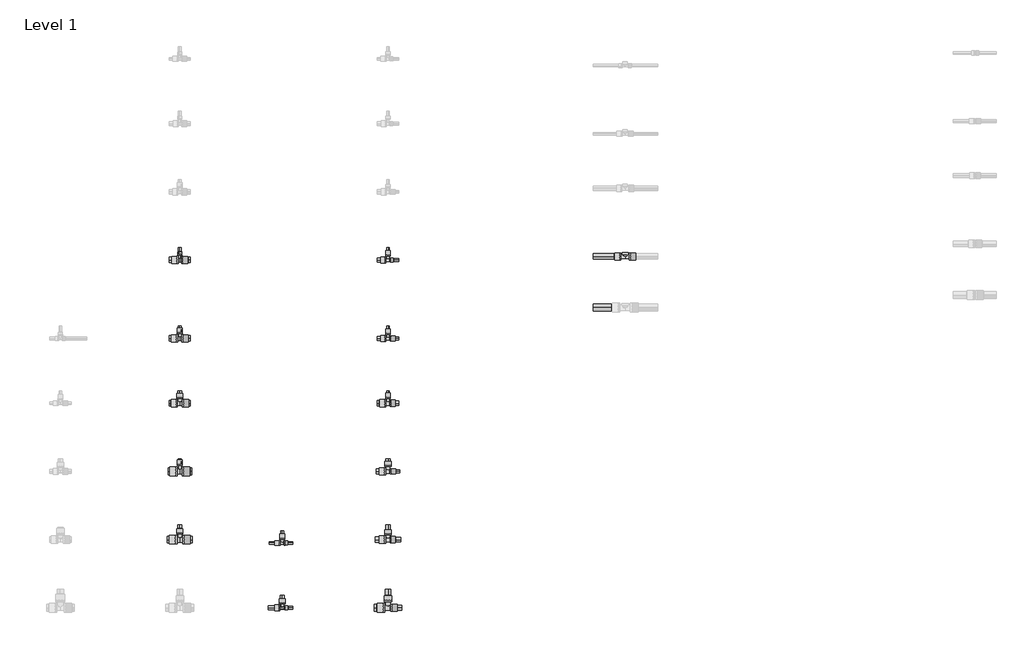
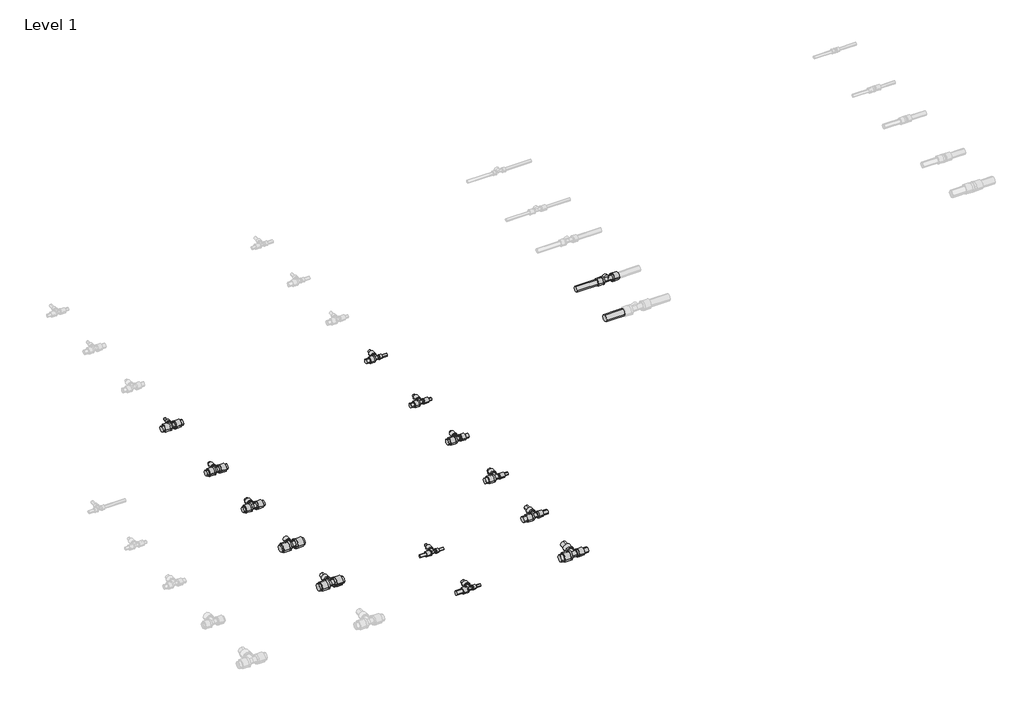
# One storey, part 9 of 78: 41 pipe segments, 14 pipe fittings.
"""IFC4 building model written with IfcOpenShell, lengths in millimetres."""

from ifc_helpers import new_model, si_unit, point, frame, frame_2d, origin, place, context, project, spatial, circle_curve, trimmed, segment, composite_curve, outline, extrude, transform, mapped, element, save
from components import pipe_fitting_91740978, pipe_fitting_7435f538, pipe_fitting_b40a3e3c, pipe_fitting_68251213, pipe_fitting_15165f03, pipe_fitting_a094db19, pipe_fitting_19df1a9e, pipe_fitting_16730f07, pipe_fitting_5d5decb5, pipe_fitting_f2600fd0, pipe_fitting_8d489ee2, pipe_fitting_c4e8b4db, pipe_fitting_757463f1, pipe_fitting_e638986c

model = new_model("IFC4")

# Units and contexts
model_context = context("Model", 3, world=origin())
ifc_project = project(units=[si_unit("LENGTHUNIT", "METRE", prefix="MILLI")], contexts=[model_context])

# Site, building, storey
site = spatial("IfcSite", under=ifc_project)
building = spatial("IfcBuilding", under=site)
storey = spatial("IfcBuildingStorey", under=building, Name="Level 1", Elevation=0.0)

# Pipe fittings
placement = place(None, origin())
pipe_fitting_shape = pipe_fitting_91740978(model_context)
element("IfcPipeFitting", 1, ObjectType="FASTLOC_T-piece internal thread LX : FSL T thread LX FR", at=placement, inside=storey, context=model_context, shape_type="MappedRepresentation", body=[
    mapped(pipe_fitting_shape, transform((3036.609585, -28299.8272875, 0.0), x_axis=(1.0, 0.0, 0.0), y_axis=(0.0, 1.0, 0.0), z_axis=(0.0, 0.0, 1.0))),
])
pipe_fitting_2_shape = pipe_fitting_7435f538(model_context)
element("IfcPipeFitting", 2, ObjectType="FASTLOC_T-piece_LX : FSL T-Piece LX FR", at=placement, inside=storey, context=model_context, shape_type="MappedRepresentation", body=[
    mapped(pipe_fitting_2_shape, transform((426.7498072, -28780.2405791, 0.0), x_axis=(1.0, 0.0, 0.0), y_axis=(0.0, 1.0, 0.0), z_axis=(0.0, 0.0, 1.0))),
])
pipe_fitting_3_shape = pipe_fitting_b40a3e3c(model_context)
element("IfcPipeFitting", 3, ObjectType="FASTLOC_T-piece_LX : FSL T-Piece LX FR", at=placement, inside=storey, context=model_context, shape_type="MappedRepresentation", body=[
    mapped(pipe_fitting_3_shape, transform((426.7498072, -29160.2405791, 0.0), x_axis=(1.0, 0.0, 0.0), y_axis=(0.0, 1.0, 0.0), z_axis=(0.0, 0.0, 1.0))),
])
pipe_fitting_4_shape = pipe_fitting_68251213(model_context)
element("IfcPipeFitting", 4, ObjectType="FASTLOC_T-piece_LX : FSL T-Piece LX FR", at=placement, inside=storey, context=model_context, shape_type="MappedRepresentation", body=[
    mapped(pipe_fitting_4_shape, transform((426.7498072, -29560.2405791, 0.0), x_axis=(1.0, 0.0, 0.0), y_axis=(0.0, 1.0, 0.0), z_axis=(0.0, 0.0, 1.0))),
])
pipe_fitting_5_shape = pipe_fitting_15165f03(model_context)
element("IfcPipeFitting", 5, ObjectType="FASTLOC_T-piece_LX : FSL T-Piece LX FR", at=placement, inside=storey, context=model_context, shape_type="MappedRepresentation", body=[
    mapped(pipe_fitting_5_shape, transform((426.7498072, -29960.2405791, 0.0), x_axis=(1.0, 0.0, 0.0), y_axis=(0.0, 1.0, 0.0), z_axis=(0.0, 0.0, 1.0))),
])
pipe_fitting_6_shape = pipe_fitting_a094db19(model_context)
element("IfcPipeFitting", 6, ObjectType="FASTLOC_T-piece_LX : FSL T-Piece LX FR", at=placement, inside=storey, context=model_context, shape_type="MappedRepresentation", body=[
    mapped(pipe_fitting_6_shape, transform((426.7498072, -28320.2405791, 0.0), x_axis=(1.0, 0.0, 0.0), y_axis=(0.0, 1.0, 0.0), z_axis=(0.0, 0.0, 1.0))),
])
pipe_fitting_7_shape = pipe_fitting_19df1a9e(model_context)
element("IfcPipeFitting", 7, ObjectType="FASTLOC_T-piece_LX : FSL T-Piece LX FR", at=placement, inside=storey, context=model_context, shape_type="MappedRepresentation", body=[
    mapped(pipe_fitting_7_shape, transform((1026.7498072, -29980.2405791, 0.0), x_axis=(1.0, 0.0, 0.0), y_axis=(0.0, 1.0, 0.0), z_axis=(0.0, 0.0, 1.0))),
])
pipe_fitting_8_shape = pipe_fitting_16730f07(model_context)
element("IfcPipeFitting", 8, ObjectType="FASTLOC_T-piece_LX : FSL T-Piece LX FR", at=placement, inside=storey, context=model_context, shape_type="MappedRepresentation", body=[
    mapped(pipe_fitting_8_shape, transform((1026.7498072, -30360.2405791, 0.0), x_axis=(1.0, 0.0, 0.0), y_axis=(0.0, 1.0, 0.0), z_axis=(0.0, 0.0, 1.0))),
])
pipe_fitting_9_shape = pipe_fitting_5d5decb5(model_context)
element("IfcPipeFitting", 9, ObjectType="FASTLOC_T-piece_LX : FSL T-Piece LX FR", at=placement, inside=storey, context=model_context, shape_type="MappedRepresentation", body=[
    mapped(pipe_fitting_9_shape, transform((1646.7498072, -28780.2405791, 0.0), x_axis=(1.0, 0.0, 0.0), y_axis=(0.0, 1.0, 0.0), z_axis=(0.0, 0.0, 1.0))),
])
pipe_fitting_10_shape = pipe_fitting_f2600fd0(model_context)
element("IfcPipeFitting", 10, ObjectType="FASTLOC_T-piece_LX : FSL T-Piece LX FR", at=placement, inside=storey, context=model_context, shape_type="MappedRepresentation", body=[
    mapped(pipe_fitting_10_shape, transform((1646.7498072, -29160.2405791, 0.0), x_axis=(1.0, 0.0, 0.0), y_axis=(0.0, 1.0, 0.0), z_axis=(0.0, 0.0, 1.0))),
])
pipe_fitting_11_shape = pipe_fitting_8d489ee2(model_context)
element("IfcPipeFitting", 11, ObjectType="FASTLOC_T-piece_LX : FSL T-Piece LX FR", at=placement, inside=storey, context=model_context, shape_type="MappedRepresentation", body=[
    mapped(pipe_fitting_11_shape, transform((1646.7498072, -29560.2405791, 0.0), x_axis=(1.0, 0.0, 0.0), y_axis=(0.0, 1.0, 0.0), z_axis=(0.0, 0.0, 1.0))),
])
pipe_fitting_12_shape = pipe_fitting_c4e8b4db(model_context)
element("IfcPipeFitting", 12, ObjectType="FASTLOC_T-piece_LX : FSL T-Piece LX FR", at=placement, inside=storey, context=model_context, shape_type="MappedRepresentation", body=[
    mapped(pipe_fitting_12_shape, transform((1646.7498072, -29960.2405791, 0.0), x_axis=(1.0, 0.0, 0.0), y_axis=(0.0, 1.0, 0.0), z_axis=(0.0, 0.0, 1.0))),
])
pipe_fitting_13_shape = pipe_fitting_757463f1(model_context)
element("IfcPipeFitting", 13, ObjectType="FASTLOC_T-piece_LX : FSL T-Piece LX FR", at=placement, inside=storey, context=model_context, shape_type="MappedRepresentation", body=[
    mapped(pipe_fitting_13_shape, transform((1646.7498072, -30360.2405791, 0.0), x_axis=(1.0, 0.0, 0.0), y_axis=(0.0, 1.0, 0.0), z_axis=(0.0, 0.0, 1.0))),
])
pipe_fitting_14_shape = pipe_fitting_e638986c(model_context)
element("IfcPipeFitting", 14, ObjectType="FASTLOC_T-piece_LX : FSL T-Piece LX FR", at=placement, inside=storey, context=model_context, shape_type="MappedRepresentation", body=[
    mapped(pipe_fitting_14_shape, transform((1646.7498072, -28320.2405791, 0.0), x_axis=(1.0, 0.0, 0.0), y_axis=(0.0, 1.0, 0.0), z_axis=(0.0, 0.0, 1.0))),
])

# Pipe segments
element("IfcPipeSegment", 15, ObjectType="FASTLOC LX ML FR bar", at=placement, inside=storey, context=model_context, shape_type="SweptSolid", body=[
    extrude(outline(composite_curve([segment(trimmed(circle_curve(frame_2d((-28780.2405791, 0.0)), 16.0), [point((-28796.2405791, 0.0))], [point((-28780.2405791, 16.0))], False, "CARTESIAN"), True, "CONTINUOUS"), segment(trimmed(circle_curve(frame_2d((-28780.2405791, 0.0)), 16.0), [point((-28780.2405791, 16.0))], [point((-28764.2405791, 0.0))], False, "CARTESIAN"), True, "CONTINUOUS"), segment(trimmed(circle_curve(frame_2d((-28780.2405791, 0.0)), 16.0), [point((-28764.2405791, 0.0))], [point((-28780.2405791, -16.0))], False, "CARTESIAN"), True, "CONTINUOUS"), segment(trimmed(circle_curve(frame_2d((-28780.2405791, 0.0)), 16.0), [point((-28780.2405791, -16.0))], [point((-28796.2405791, 0.0))], False, "CARTESIAN"), True, "CONTINUOUS")], self_intersect=False)), frame((446.9498072, 0.0, 0.0), z_axis=(1.0, 0.0, 0.0), x_axis=(0.0, 1.0, 0.0)), (0.0, 0.0, 1.0), 41.8),
])
element("IfcPipeSegment", 16, ObjectType="FASTLOC LX ML FR bar", at=placement, inside=storey, context=model_context, shape_type="SweptSolid", body=[
    extrude(outline(composite_curve([segment(trimmed(circle_curve(frame_2d((-28780.2405791, 0.0)), 16.0), [point((-28764.2405791, 0.0))], [point((-28780.2405791, -16.0))], False, "CARTESIAN"), True, "CONTINUOUS"), segment(trimmed(circle_curve(frame_2d((-28780.2405791, 0.0)), 16.0), [point((-28780.2405791, -16.0))], [point((-28796.2405791, 0.0))], False, "CARTESIAN"), True, "CONTINUOUS"), segment(trimmed(circle_curve(frame_2d((-28780.2405791, 0.0)), 16.0), [point((-28796.2405791, 0.0))], [point((-28780.2405791, 16.0))], False, "CARTESIAN"), True, "CONTINUOUS"), segment(trimmed(circle_curve(frame_2d((-28780.2405791, 0.0)), 16.0), [point((-28780.2405791, 16.0))], [point((-28764.2405791, 0.0))], False, "CARTESIAN"), True, "CONTINUOUS")], self_intersect=False)), frame((364.7498072, 0.0, 0.0), z_axis=(1.0, 0.0, 0.0), x_axis=(0.0, 1.0, 0.0)), (0.0, 0.0, 1.0), 41.8),
])
element("IfcPipeSegment", 17, ObjectType="FASTLOC LX ML FR bar", at=placement, inside=storey, context=model_context, shape_type="SweptSolid", body=[
    extrude(outline(composite_curve([segment(trimmed(circle_curve(frame_2d((0.0, 426.7498072)), 8.0), [point((0.0, 434.7498072))], [point((8.0, 426.7498072))], False, "CARTESIAN"), True, "CONTINUOUS"), segment(trimmed(circle_curve(frame_2d((0.0, 426.7498072)), 8.0), [point((8.0, 426.7498072))], [point((0.0, 418.7498072))], False, "CARTESIAN"), True, "CONTINUOUS"), segment(trimmed(circle_curve(frame_2d((0.0, 426.7498072)), 8.0), [point((0.0, 418.7498072))], [point((-8.0, 426.7498072))], False, "CARTESIAN"), True, "CONTINUOUS"), segment(trimmed(circle_curve(frame_2d((0.0, 426.7498072)), 8.0), [point((-8.0, 426.7498072))], [point((0.0, 434.7498072))], False, "CARTESIAN"), True, "CONTINUOUS")], self_intersect=False)), frame((0.0, -28746.2405791, 0.0), z_axis=(0.0, 1.0, 0.0), x_axis=(0.0, 0.0, 1.0)), (0.0, 0.0, 1.0), 38.3),
])
element("IfcPipeSegment", 18, ObjectType="FASTLOC LX ML FR bar", at=placement, inside=storey, context=model_context, shape_type="SweptSolid", body=[
    extrude(outline(composite_curve([segment(trimmed(circle_curve(frame_2d((-29160.2405791, 0.0)), 16.0), [point((-29176.2405791, 0.0))], [point((-29160.2405791, 16.0))], False, "CARTESIAN"), True, "CONTINUOUS"), segment(trimmed(circle_curve(frame_2d((-29160.2405791, 0.0)), 16.0), [point((-29160.2405791, 16.0))], [point((-29144.2405791, 0.0))], False, "CARTESIAN"), True, "CONTINUOUS"), segment(trimmed(circle_curve(frame_2d((-29160.2405791, 0.0)), 16.0), [point((-29144.2405791, 0.0))], [point((-29160.2405791, -16.0))], False, "CARTESIAN"), True, "CONTINUOUS"), segment(trimmed(circle_curve(frame_2d((-29160.2405791, 0.0)), 16.0), [point((-29160.2405791, -16.0))], [point((-29176.2405791, 0.0))], False, "CARTESIAN"), True, "CONTINUOUS")], self_intersect=False)), frame((448.7498072, 0.0, 0.0), z_axis=(1.0, 0.0, 0.0), x_axis=(0.0, 1.0, 0.0)), (0.0, 0.0, 1.0), 40.0),
])
element("IfcPipeSegment", 19, ObjectType="FASTLOC LX ML FR bar", at=placement, inside=storey, context=model_context, shape_type="SweptSolid", body=[
    extrude(outline(composite_curve([segment(trimmed(circle_curve(frame_2d((-29160.2405791, 0.0)), 16.0), [point((-29144.2405791, 0.0))], [point((-29160.2405791, -16.0))], False, "CARTESIAN"), True, "CONTINUOUS"), segment(trimmed(circle_curve(frame_2d((-29160.2405791, 0.0)), 16.0), [point((-29160.2405791, -16.0))], [point((-29176.2405791, 0.0))], False, "CARTESIAN"), True, "CONTINUOUS"), segment(trimmed(circle_curve(frame_2d((-29160.2405791, 0.0)), 16.0), [point((-29176.2405791, 0.0))], [point((-29160.2405791, 16.0))], False, "CARTESIAN"), True, "CONTINUOUS"), segment(trimmed(circle_curve(frame_2d((-29160.2405791, 0.0)), 16.0), [point((-29160.2405791, 16.0))], [point((-29144.2405791, 0.0))], False, "CARTESIAN"), True, "CONTINUOUS")], self_intersect=False)), frame((364.7498072, 0.0, 0.0), z_axis=(1.0, 0.0, 0.0), x_axis=(0.0, 1.0, 0.0)), (0.0, 0.0, 1.0), 40.0),
])
element("IfcPipeSegment", 20, ObjectType="FASTLOC LX ML FR bar", at=placement, inside=storey, context=model_context, shape_type="SweptSolid", body=[
    extrude(outline(composite_curve([segment(trimmed(circle_curve(frame_2d((0.0, 426.7498072)), 12.5), [point((0.0, 439.2498072))], [point((12.5, 426.7498072))], False, "CARTESIAN"), True, "CONTINUOUS"), segment(trimmed(circle_curve(frame_2d((0.0, 426.7498072)), 12.5), [point((12.5, 426.7498072))], [point((0.0, 414.2498072))], False, "CARTESIAN"), True, "CONTINUOUS"), segment(trimmed(circle_curve(frame_2d((0.0, 426.7498072)), 12.5), [point((0.0, 414.2498072))], [point((-12.5, 426.7498072))], False, "CARTESIAN"), True, "CONTINUOUS"), segment(trimmed(circle_curve(frame_2d((0.0, 426.7498072)), 12.5), [point((-12.5, 426.7498072))], [point((0.0, 439.2498072))], False, "CARTESIAN"), True, "CONTINUOUS")], self_intersect=False)), frame((0.0, -29125.8405791, 0.0), z_axis=(0.0, 1.0, 0.0), x_axis=(0.0, 0.0, 1.0)), (0.0, 0.0, 1.0), 37.9),
])
element("IfcPipeSegment", 21, ObjectType="FASTLOC LX ML FR bar", at=placement, inside=storey, context=model_context, shape_type="SweptSolid", body=[
    extrude(outline(composite_curve([segment(trimmed(circle_curve(frame_2d((-29560.2405791, 0.0)), 20.0), [point((-29580.2405791, 0.0))], [point((-29560.2405791, 20.0))], False, "CARTESIAN"), True, "CONTINUOUS"), segment(trimmed(circle_curve(frame_2d((-29560.2405791, 0.0)), 20.0), [point((-29560.2405791, 20.0))], [point((-29540.2405791, 0.0))], False, "CARTESIAN"), True, "CONTINUOUS"), segment(trimmed(circle_curve(frame_2d((-29560.2405791, 0.0)), 20.0), [point((-29540.2405791, 0.0))], [point((-29560.2405791, -20.0))], False, "CARTESIAN"), True, "CONTINUOUS"), segment(trimmed(circle_curve(frame_2d((-29560.2405791, 0.0)), 20.0), [point((-29560.2405791, -20.0))], [point((-29580.2405791, 0.0))], False, "CARTESIAN"), True, "CONTINUOUS")], self_intersect=False)), frame((450.7498072, 0.0, 0.0), z_axis=(1.0, 0.0, 0.0), x_axis=(0.0, 1.0, 0.0)), (0.0, 0.0, 1.0), 45.0),
])
element("IfcPipeSegment", 22, ObjectType="FASTLOC LX ML FR bar", at=placement, inside=storey, context=model_context, shape_type="SweptSolid", body=[
    extrude(outline(composite_curve([segment(trimmed(circle_curve(frame_2d((-29560.2405791, 0.0)), 20.0), [point((-29540.2405791, 0.0))], [point((-29560.2405791, -20.0))], False, "CARTESIAN"), True, "CONTINUOUS"), segment(trimmed(circle_curve(frame_2d((-29560.2405791, 0.0)), 20.0), [point((-29560.2405791, -20.0))], [point((-29580.2405791, 0.0))], False, "CARTESIAN"), True, "CONTINUOUS"), segment(trimmed(circle_curve(frame_2d((-29560.2405791, 0.0)), 20.0), [point((-29580.2405791, 0.0))], [point((-29560.2405791, 20.0))], False, "CARTESIAN"), True, "CONTINUOUS"), segment(trimmed(circle_curve(frame_2d((-29560.2405791, 0.0)), 20.0), [point((-29560.2405791, 20.0))], [point((-29540.2405791, 0.0))], False, "CARTESIAN"), True, "CONTINUOUS")], self_intersect=False)), frame((357.7498072, 0.0, 0.0), z_axis=(1.0, 0.0, 0.0), x_axis=(0.0, 1.0, 0.0)), (0.0, 0.0, 1.0), 45.0),
])
element("IfcPipeSegment", 23, ObjectType="FASTLOC LX ML FR bar", at=placement, inside=storey, context=model_context, shape_type="SweptSolid", body=[
    extrude(outline(composite_curve([segment(trimmed(circle_curve(frame_2d((0.0, 426.7498072)), 8.0), [point((0.0, 434.7498072))], [point((8.0, 426.7498072))], False, "CARTESIAN"), True, "CONTINUOUS"), segment(trimmed(circle_curve(frame_2d((0.0, 426.7498072)), 8.0), [point((8.0, 426.7498072))], [point((0.0, 418.7498072))], False, "CARTESIAN"), True, "CONTINUOUS"), segment(trimmed(circle_curve(frame_2d((0.0, 426.7498072)), 8.0), [point((0.0, 418.7498072))], [point((-8.0, 426.7498072))], False, "CARTESIAN"), True, "CONTINUOUS"), segment(trimmed(circle_curve(frame_2d((0.0, 426.7498072)), 8.0), [point((-8.0, 426.7498072))], [point((0.0, 434.7498072))], False, "CARTESIAN"), True, "CONTINUOUS")], self_intersect=False)), frame((0.0, -29519.7405791, 0.0), z_axis=(0.0, 1.0, 0.0), x_axis=(0.0, 0.0, 1.0)), (0.0, 0.0, 1.0), 31.8),
])
element("IfcPipeSegment", 24, ObjectType="FASTLOC LX ML FR bar", at=placement, inside=storey, context=model_context, shape_type="SweptSolid", body=[
    extrude(outline(composite_curve([segment(trimmed(circle_curve(frame_2d((-29960.2405791, 0.0)), 20.0), [point((-29980.2405791, 0.0))], [point((-29960.2405791, 20.0))], False, "CARTESIAN"), True, "CONTINUOUS"), segment(trimmed(circle_curve(frame_2d((-29960.2405791, 0.0)), 20.0), [point((-29960.2405791, 20.0))], [point((-29940.2405791, 0.0))], False, "CARTESIAN"), True, "CONTINUOUS"), segment(trimmed(circle_curve(frame_2d((-29960.2405791, 0.0)), 20.0), [point((-29940.2405791, 0.0))], [point((-29960.2405791, -20.0))], False, "CARTESIAN"), True, "CONTINUOUS"), segment(trimmed(circle_curve(frame_2d((-29960.2405791, 0.0)), 20.0), [point((-29960.2405791, -20.0))], [point((-29980.2405791, 0.0))], False, "CARTESIAN"), True, "CONTINUOUS")], self_intersect=False)), frame((452.5498072, 0.0, 0.0), z_axis=(1.0, 0.0, 0.0), x_axis=(0.0, 1.0, 0.0)), (0.0, 0.0, 1.0), 47.8),
])
element("IfcPipeSegment", 25, ObjectType="FASTLOC LX ML FR bar", at=placement, inside=storey, context=model_context, shape_type="SweptSolid", body=[
    extrude(outline(composite_curve([segment(trimmed(circle_curve(frame_2d((-29960.2405791, 0.0)), 20.0), [point((-29940.2405791, 0.0))], [point((-29960.2405791, -20.0))], False, "CARTESIAN"), True, "CONTINUOUS"), segment(trimmed(circle_curve(frame_2d((-29960.2405791, 0.0)), 20.0), [point((-29960.2405791, -20.0))], [point((-29980.2405791, 0.0))], False, "CARTESIAN"), True, "CONTINUOUS"), segment(trimmed(circle_curve(frame_2d((-29960.2405791, 0.0)), 20.0), [point((-29980.2405791, 0.0))], [point((-29960.2405791, 20.0))], False, "CARTESIAN"), True, "CONTINUOUS"), segment(trimmed(circle_curve(frame_2d((-29960.2405791, 0.0)), 20.0), [point((-29960.2405791, 20.0))], [point((-29940.2405791, 0.0))], False, "CARTESIAN"), True, "CONTINUOUS")], self_intersect=False)), frame((353.1498072, 0.0, 0.0), z_axis=(1.0, 0.0, 0.0), x_axis=(0.0, 1.0, 0.0)), (0.0, 0.0, 1.0), 47.8),
])
element("IfcPipeSegment", 26, ObjectType="FASTLOC LX ML FR bar", at=placement, inside=storey, context=model_context, shape_type="SweptSolid", body=[
    extrude(outline(composite_curve([segment(trimmed(circle_curve(frame_2d((0.0, 426.7498072)), 12.5), [point((0.0, 439.2498072))], [point((12.5, 426.7498072))], False, "CARTESIAN"), True, "CONTINUOUS"), segment(trimmed(circle_curve(frame_2d((0.0, 426.7498072)), 12.5), [point((12.5, 426.7498072))], [point((0.0, 414.2498072))], False, "CARTESIAN"), True, "CONTINUOUS"), segment(trimmed(circle_curve(frame_2d((0.0, 426.7498072)), 12.5), [point((0.0, 414.2498072))], [point((-12.5, 426.7498072))], False, "CARTESIAN"), True, "CONTINUOUS"), segment(trimmed(circle_curve(frame_2d((0.0, 426.7498072)), 12.5), [point((-12.5, 426.7498072))], [point((0.0, 439.2498072))], False, "CARTESIAN"), True, "CONTINUOUS")], self_intersect=False)), frame((0.0, -29919.2405791, 0.0), z_axis=(0.0, 1.0, 0.0), x_axis=(0.0, 0.0, 1.0)), (0.0, 0.0, 1.0), 46.8),
])
element("IfcPipeSegment", 27, ObjectType="FASTLOC LX ML FR bar", at=placement, inside=storey, context=model_context, shape_type="SweptSolid", body=[
    extrude(outline(composite_curve([segment(trimmed(circle_curve(frame_2d((-28320.2405791, 0.0)), 16.0), [point((-28336.2405791, 0.0))], [point((-28320.2405791, 16.0))], False, "CARTESIAN"), True, "CONTINUOUS"), segment(trimmed(circle_curve(frame_2d((-28320.2405791, 0.0)), 16.0), [point((-28320.2405791, 16.0))], [point((-28304.2405791, 0.0))], False, "CARTESIAN"), True, "CONTINUOUS"), segment(trimmed(circle_curve(frame_2d((-28320.2405791, 0.0)), 16.0), [point((-28304.2405791, 0.0))], [point((-28320.2405791, -16.0))], False, "CARTESIAN"), True, "CONTINUOUS"), segment(trimmed(circle_curve(frame_2d((-28320.2405791, 0.0)), 16.0), [point((-28320.2405791, -16.0))], [point((-28336.2405791, 0.0))], False, "CARTESIAN"), True, "CONTINUOUS")], self_intersect=False)), frame((445.0498072, 0.0, 0.0), z_axis=(1.0, 0.0, 0.0), x_axis=(0.0, 1.0, 0.0)), (0.0, 0.0, 1.0), 43.7),
])
element("IfcPipeSegment", 28, ObjectType="FASTLOC LX ML FR bar", at=placement, inside=storey, context=model_context, shape_type="SweptSolid", body=[
    extrude(outline(composite_curve([segment(trimmed(circle_curve(frame_2d((-28320.2405791, 0.0)), 16.0), [point((-28304.2405791, 0.0))], [point((-28320.2405791, -16.0))], False, "CARTESIAN"), True, "CONTINUOUS"), segment(trimmed(circle_curve(frame_2d((-28320.2405791, 0.0)), 16.0), [point((-28320.2405791, -16.0))], [point((-28336.2405791, 0.0))], False, "CARTESIAN"), True, "CONTINUOUS"), segment(trimmed(circle_curve(frame_2d((-28320.2405791, 0.0)), 16.0), [point((-28336.2405791, 0.0))], [point((-28320.2405791, 16.0))], False, "CARTESIAN"), True, "CONTINUOUS"), segment(trimmed(circle_curve(frame_2d((-28320.2405791, 0.0)), 16.0), [point((-28320.2405791, 16.0))], [point((-28304.2405791, 0.0))], False, "CARTESIAN"), True, "CONTINUOUS")], self_intersect=False)), frame((364.7498072, 0.0, 0.0), z_axis=(1.0, 0.0, 0.0), x_axis=(0.0, 1.0, 0.0)), (0.0, 0.0, 1.0), 43.7),
])
element("IfcPipeSegment", 29, ObjectType="FASTLOC LX ML FR bar", at=placement, inside=storey, context=model_context, shape_type="SweptSolid", body=[
    extrude(outline(composite_curve([segment(trimmed(circle_curve(frame_2d((0.0, 426.7498072)), 8.0), [point((0.0, 434.7498072))], [point((8.0, 426.7498072))], False, "CARTESIAN"), True, "CONTINUOUS"), segment(trimmed(circle_curve(frame_2d((0.0, 426.7498072)), 8.0), [point((8.0, 426.7498072))], [point((0.0, 418.7498072))], False, "CARTESIAN"), True, "CONTINUOUS"), segment(trimmed(circle_curve(frame_2d((0.0, 426.7498072)), 8.0), [point((0.0, 418.7498072))], [point((-8.0, 426.7498072))], False, "CARTESIAN"), True, "CONTINUOUS"), segment(trimmed(circle_curve(frame_2d((0.0, 426.7498072)), 8.0), [point((-8.0, 426.7498072))], [point((0.0, 434.7498072))], False, "CARTESIAN"), True, "CONTINUOUS")], self_intersect=False)), frame((0.0, -28286.3405791, 0.0), z_axis=(0.0, 1.0, 0.0), x_axis=(0.0, 0.0, 1.0)), (0.0, 0.0, 1.0), 38.4),
])
element("IfcPipeSegment", 30, ObjectType="FASTLOC LX ML FR bar", at=placement, inside=storey, context=model_context, shape_type="SweptSolid", body=[
    extrude(outline(composite_curve([segment(trimmed(circle_curve(frame_2d((-29980.2405791, 0.0)), 8.0), [point((-29988.2405791, 0.0))], [point((-29980.2405791, 8.0))], False, "CARTESIAN"), True, "CONTINUOUS"), segment(trimmed(circle_curve(frame_2d((-29980.2405791, 0.0)), 8.0), [point((-29980.2405791, 8.0))], [point((-29972.2405791, 0.0))], False, "CARTESIAN"), True, "CONTINUOUS"), segment(trimmed(circle_curve(frame_2d((-29980.2405791, 0.0)), 8.0), [point((-29972.2405791, 0.0))], [point((-29980.2405791, -8.0))], False, "CARTESIAN"), True, "CONTINUOUS"), segment(trimmed(circle_curve(frame_2d((-29980.2405791, 0.0)), 8.0), [point((-29980.2405791, -8.0))], [point((-29988.2405791, 0.0))], False, "CARTESIAN"), True, "CONTINUOUS")], self_intersect=False)), frame((1043.7498072, 0.0, 0.0), z_axis=(1.0, 0.0, 0.0), x_axis=(0.0, 1.0, 0.0)), (0.0, 0.0, 1.0), 45.0),
])
element("IfcPipeSegment", 31, ObjectType="FASTLOC LX ML FR bar", at=placement, inside=storey, context=model_context, shape_type="SweptSolid", body=[
    extrude(outline(composite_curve([segment(trimmed(circle_curve(frame_2d((-29980.2405791, 0.0)), 8.0), [point((-29972.2405791, 0.0))], [point((-29980.2405791, -8.0))], False, "CARTESIAN"), True, "CONTINUOUS"), segment(trimmed(circle_curve(frame_2d((-29980.2405791, 0.0)), 8.0), [point((-29980.2405791, -8.0))], [point((-29988.2405791, 0.0))], False, "CARTESIAN"), True, "CONTINUOUS"), segment(trimmed(circle_curve(frame_2d((-29980.2405791, 0.0)), 8.0), [point((-29988.2405791, 0.0))], [point((-29980.2405791, 8.0))], False, "CARTESIAN"), True, "CONTINUOUS"), segment(trimmed(circle_curve(frame_2d((-29980.2405791, 0.0)), 8.0), [point((-29980.2405791, 8.0))], [point((-29972.2405791, 0.0))], False, "CARTESIAN"), True, "CONTINUOUS")], self_intersect=False)), frame((949.3498072, 0.0, 0.0), z_axis=(1.0, 0.0, 0.0), x_axis=(0.0, 1.0, 0.0)), (0.0, 0.0, 1.0), 60.0),
])
element("IfcPipeSegment", 32, ObjectType="FASTLOC LX ML FR bar", at=placement, inside=storey, context=model_context, shape_type="SweptSolid", body=[
    extrude(outline(composite_curve([segment(trimmed(circle_curve(frame_2d((0.0, 1026.7498072)), 8.0), [point((0.0, 1034.7498072))], [point((8.0, 1026.7498072))], False, "CARTESIAN"), True, "CONTINUOUS"), segment(trimmed(circle_curve(frame_2d((0.0, 1026.7498072)), 8.0), [point((8.0, 1026.7498072))], [point((0.0, 1018.7498072))], False, "CARTESIAN"), True, "CONTINUOUS"), segment(trimmed(circle_curve(frame_2d((0.0, 1026.7498072)), 8.0), [point((0.0, 1018.7498072))], [point((-8.0, 1026.7498072))], False, "CARTESIAN"), True, "CONTINUOUS"), segment(trimmed(circle_curve(frame_2d((0.0, 1026.7498072)), 8.0), [point((-8.0, 1026.7498072))], [point((0.0, 1034.7498072))], False, "CARTESIAN"), True, "CONTINUOUS")], self_intersect=False)), frame((0.0, -29953.8405791, 0.0), z_axis=(0.0, 1.0, 0.0), x_axis=(0.0, 0.0, 1.0)), (0.0, 0.0, 1.0), 45.9),
])
element("IfcPipeSegment", 33, ObjectType="FASTLOC LX ML FR bar", at=placement, inside=storey, context=model_context, shape_type="SweptSolid", body=[
    extrude(outline(composite_curve([segment(trimmed(circle_curve(frame_2d((-30360.2405791, 0.0)), 8.0), [point((-30368.2405791, 0.0))], [point((-30360.2405791, 8.0))], False, "CARTESIAN"), True, "CONTINUOUS"), segment(trimmed(circle_curve(frame_2d((-30360.2405791, 0.0)), 8.0), [point((-30360.2405791, 8.0))], [point((-30352.2405791, 0.0))], False, "CARTESIAN"), True, "CONTINUOUS"), segment(trimmed(circle_curve(frame_2d((-30360.2405791, 0.0)), 8.0), [point((-30352.2405791, 0.0))], [point((-30360.2405791, -8.0))], False, "CARTESIAN"), True, "CONTINUOUS"), segment(trimmed(circle_curve(frame_2d((-30360.2405791, 0.0)), 8.0), [point((-30360.2405791, -8.0))], [point((-30368.2405791, 0.0))], False, "CARTESIAN"), True, "CONTINUOUS")], self_intersect=False)), frame((1045.5498072, 0.0, 0.0), z_axis=(1.0, 0.0, 0.0), x_axis=(0.0, 1.0, 0.0)), (0.0, 0.0, 1.0), 43.2),
])
element("IfcPipeSegment", 34, ObjectType="FASTLOC LX ML FR bar", at=placement, inside=storey, context=model_context, shape_type="SweptSolid", body=[
    extrude(outline(composite_curve([segment(trimmed(circle_curve(frame_2d((-30360.2405791, 0.0)), 12.5), [point((-30347.7405791, 0.0))], [point((-30360.2405791, -12.5))], False, "CARTESIAN"), True, "CONTINUOUS"), segment(trimmed(circle_curve(frame_2d((-30360.2405791, 0.0)), 12.5), [point((-30360.2405791, -12.5))], [point((-30372.7405791, 0.0))], False, "CARTESIAN"), True, "CONTINUOUS"), segment(trimmed(circle_curve(frame_2d((-30360.2405791, 0.0)), 12.5), [point((-30372.7405791, 0.0))], [point((-30360.2405791, 12.5))], False, "CARTESIAN"), True, "CONTINUOUS"), segment(trimmed(circle_curve(frame_2d((-30360.2405791, 0.0)), 12.5), [point((-30360.2405791, 12.5))], [point((-30347.7405791, 0.0))], False, "CARTESIAN"), True, "CONTINUOUS")], self_intersect=False)), frame((944.3498072, 0.0, 0.0), z_axis=(1.0, 0.0, 0.0), x_axis=(0.0, 1.0, 0.0)), (0.0, 0.0, 1.0), 62.3),
])
element("IfcPipeSegment", 35, ObjectType="FASTLOC LX ML FR bar", at=placement, inside=storey, context=model_context, shape_type="SweptSolid", body=[
    extrude(outline(composite_curve([segment(trimmed(circle_curve(frame_2d((0.0, 1026.7498072)), 12.5), [point((0.0, 1039.2498072))], [point((12.5, 1026.7498072))], False, "CARTESIAN"), True, "CONTINUOUS"), segment(trimmed(circle_curve(frame_2d((0.0, 1026.7498072)), 12.5), [point((12.5, 1026.7498072))], [point((0.0, 1014.2498072))], False, "CARTESIAN"), True, "CONTINUOUS"), segment(trimmed(circle_curve(frame_2d((0.0, 1026.7498072)), 12.5), [point((0.0, 1014.2498072))], [point((-12.5, 1026.7498072))], False, "CARTESIAN"), True, "CONTINUOUS"), segment(trimmed(circle_curve(frame_2d((0.0, 1026.7498072)), 12.5), [point((-12.5, 1026.7498072))], [point((0.0, 1039.2498072))], False, "CARTESIAN"), True, "CONTINUOUS")], self_intersect=False)), frame((0.0, -30330.7405791, 0.0), z_axis=(0.0, 1.0, 0.0), x_axis=(0.0, 0.0, 1.0)), (0.0, 0.0, 1.0), 42.8),
])
element("IfcPipeSegment", 36, ObjectType="FASTLOC LX ML FR bar", at=placement, inside=storey, context=model_context, shape_type="SweptSolid", body=[
    extrude(outline(composite_curve([segment(trimmed(circle_curve(frame_2d((-28780.2405791, 0.0)), 8.0), [point((-28788.2405791, 0.0))], [point((-28780.2405791, 8.0))], False, "CARTESIAN"), True, "CONTINUOUS"), segment(trimmed(circle_curve(frame_2d((-28780.2405791, 0.0)), 8.0), [point((-28780.2405791, 8.0))], [point((-28772.2405791, 0.0))], False, "CARTESIAN"), True, "CONTINUOUS"), segment(trimmed(circle_curve(frame_2d((-28780.2405791, 0.0)), 8.0), [point((-28772.2405791, 0.0))], [point((-28780.2405791, -8.0))], False, "CARTESIAN"), True, "CONTINUOUS"), segment(trimmed(circle_curve(frame_2d((-28780.2405791, 0.0)), 8.0), [point((-28780.2405791, -8.0))], [point((-28788.2405791, 0.0))], False, "CARTESIAN"), True, "CONTINUOUS")], self_intersect=False)), frame((1664.1498072, 0.0, 0.0), z_axis=(1.0, 0.0, 0.0), x_axis=(0.0, 1.0, 0.0)), (0.0, 0.0, 1.0), 44.6),
])
element("IfcPipeSegment", 37, ObjectType="FASTLOC LX ML FR bar", at=placement, inside=storey, context=model_context, shape_type="SweptSolid", body=[
    extrude(outline(composite_curve([segment(trimmed(circle_curve(frame_2d((-28780.2405791, 0.0)), 12.5), [point((-28767.7405791, 0.0))], [point((-28780.2405791, -12.5))], False, "CARTESIAN"), True, "CONTINUOUS"), segment(trimmed(circle_curve(frame_2d((-28780.2405791, 0.0)), 12.5), [point((-28780.2405791, -12.5))], [point((-28792.7405791, 0.0))], False, "CARTESIAN"), True, "CONTINUOUS"), segment(trimmed(circle_curve(frame_2d((-28780.2405791, 0.0)), 12.5), [point((-28792.7405791, 0.0))], [point((-28780.2405791, 12.5))], False, "CARTESIAN"), True, "CONTINUOUS"), segment(trimmed(circle_curve(frame_2d((-28780.2405791, 0.0)), 12.5), [point((-28780.2405791, 12.5))], [point((-28767.7405791, 0.0))], False, "CARTESIAN"), True, "CONTINUOUS")], self_intersect=False)), frame((1584.7498072, 0.0, 0.0), z_axis=(1.0, 0.0, 0.0), x_axis=(0.0, 1.0, 0.0)), (0.0, 0.0, 1.0), 43.7),
])
element("IfcPipeSegment", 38, ObjectType="FASTLOC LX ML FR bar", at=placement, inside=storey, context=model_context, shape_type="SweptSolid", body=[
    extrude(outline(composite_curve([segment(trimmed(circle_curve(frame_2d((0.0, 1646.7498072)), 8.0), [point((0.0, 1654.7498072))], [point((8.0, 1646.7498072))], False, "CARTESIAN"), True, "CONTINUOUS"), segment(trimmed(circle_curve(frame_2d((0.0, 1646.7498072)), 8.0), [point((8.0, 1646.7498072))], [point((0.0, 1638.7498072))], False, "CARTESIAN"), True, "CONTINUOUS"), segment(trimmed(circle_curve(frame_2d((0.0, 1646.7498072)), 8.0), [point((0.0, 1638.7498072))], [point((-8.0, 1646.7498072))], False, "CARTESIAN"), True, "CONTINUOUS"), segment(trimmed(circle_curve(frame_2d((0.0, 1646.7498072)), 8.0), [point((-8.0, 1646.7498072))], [point((0.0, 1654.7498072))], False, "CARTESIAN"), True, "CONTINUOUS")], self_intersect=False)), frame((0.0, -28751.0405791, 0.0), z_axis=(0.0, 1.0, 0.0), x_axis=(0.0, 0.0, 1.0)), (0.0, 0.0, 1.0), 43.1),
])
element("IfcPipeSegment", 39, ObjectType="FASTLOC LX ML FR bar", at=placement, inside=storey, context=model_context, shape_type="SweptSolid", body=[
    extrude(outline(composite_curve([segment(trimmed(circle_curve(frame_2d((-29160.2405791, 0.0)), 12.5), [point((-29172.7405791, 0.0))], [point((-29160.2405791, 12.5))], False, "CARTESIAN"), True, "CONTINUOUS"), segment(trimmed(circle_curve(frame_2d((-29160.2405791, 0.0)), 12.5), [point((-29160.2405791, 12.5))], [point((-29147.7405791, 0.0))], False, "CARTESIAN"), True, "CONTINUOUS"), segment(trimmed(circle_curve(frame_2d((-29160.2405791, 0.0)), 12.5), [point((-29147.7405791, 0.0))], [point((-29160.2405791, -12.5))], False, "CARTESIAN"), True, "CONTINUOUS"), segment(trimmed(circle_curve(frame_2d((-29160.2405791, 0.0)), 12.5), [point((-29160.2405791, -12.5))], [point((-29172.7405791, 0.0))], False, "CARTESIAN"), True, "CONTINUOUS")], self_intersect=False)), frame((1665.0498072, 0.0, 0.0), z_axis=(1.0, 0.0, 0.0), x_axis=(0.0, 1.0, 0.0)), (0.0, 0.0, 1.0), 43.7),
])
element("IfcPipeSegment", 40, ObjectType="FASTLOC LX ML FR bar", at=placement, inside=storey, context=model_context, shape_type="SweptSolid", body=[
    extrude(outline(composite_curve([segment(trimmed(circle_curve(frame_2d((-29160.2405791, 0.0)), 16.0), [point((-29144.2405791, 0.0))], [point((-29160.2405791, -16.0))], False, "CARTESIAN"), True, "CONTINUOUS"), segment(trimmed(circle_curve(frame_2d((-29160.2405791, 0.0)), 16.0), [point((-29160.2405791, -16.0))], [point((-29176.2405791, 0.0))], False, "CARTESIAN"), True, "CONTINUOUS"), segment(trimmed(circle_curve(frame_2d((-29160.2405791, 0.0)), 16.0), [point((-29176.2405791, 0.0))], [point((-29160.2405791, 16.0))], False, "CARTESIAN"), True, "CONTINUOUS"), segment(trimmed(circle_curve(frame_2d((-29160.2405791, 0.0)), 16.0), [point((-29160.2405791, 16.0))], [point((-29144.2405791, 0.0))], False, "CARTESIAN"), True, "CONTINUOUS")], self_intersect=False)), frame((1584.7498072, 0.0, 0.0), z_axis=(1.0, 0.0, 0.0), x_axis=(0.0, 1.0, 0.0)), (0.0, 0.0, 1.0), 41.7),
])
element("IfcPipeSegment", 41, ObjectType="FASTLOC LX ML FR bar", at=placement, inside=storey, context=model_context, shape_type="SweptSolid", body=[
    extrude(outline(composite_curve([segment(trimmed(circle_curve(frame_2d((0.0, 1646.7498072)), 8.0), [point((0.0, 1654.7498072))], [point((8.0, 1646.7498072))], False, "CARTESIAN"), True, "CONTINUOUS"), segment(trimmed(circle_curve(frame_2d((0.0, 1646.7498072)), 8.0), [point((8.0, 1646.7498072))], [point((0.0, 1638.7498072))], False, "CARTESIAN"), True, "CONTINUOUS"), segment(trimmed(circle_curve(frame_2d((0.0, 1646.7498072)), 8.0), [point((0.0, 1638.7498072))], [point((-8.0, 1646.7498072))], False, "CARTESIAN"), True, "CONTINUOUS"), segment(trimmed(circle_curve(frame_2d((0.0, 1646.7498072)), 8.0), [point((-8.0, 1646.7498072))], [point((0.0, 1654.7498072))], False, "CARTESIAN"), True, "CONTINUOUS")], self_intersect=False)), frame((0.0, -29126.2405791, 0.0), z_axis=(0.0, 1.0, 0.0), x_axis=(0.0, 0.0, 1.0)), (0.0, 0.0, 1.0), 38.3),
])
element("IfcPipeSegment", 42, ObjectType="FASTLOC LX ML FR bar", at=placement, inside=storey, context=model_context, shape_type="SweptSolid", body=[
    extrude(outline(composite_curve([segment(trimmed(circle_curve(frame_2d((-29560.2405791, 0.0)), 8.0), [point((-29568.2405791, 0.0))], [point((-29560.2405791, 8.0))], False, "CARTESIAN"), True, "CONTINUOUS"), segment(trimmed(circle_curve(frame_2d((-29560.2405791, 0.0)), 8.0), [point((-29560.2405791, 8.0))], [point((-29552.2405791, 0.0))], False, "CARTESIAN"), True, "CONTINUOUS"), segment(trimmed(circle_curve(frame_2d((-29560.2405791, 0.0)), 8.0), [point((-29552.2405791, 0.0))], [point((-29560.2405791, -8.0))], False, "CARTESIAN"), True, "CONTINUOUS"), segment(trimmed(circle_curve(frame_2d((-29560.2405791, 0.0)), 8.0), [point((-29560.2405791, -8.0))], [point((-29568.2405791, 0.0))], False, "CARTESIAN"), True, "CONTINUOUS")], self_intersect=False)), frame((1665.9498072, 0.0, 0.0), z_axis=(1.0, 0.0, 0.0), x_axis=(0.0, 1.0, 0.0)), (0.0, 0.0, 1.0), 49.8),
])
element("IfcPipeSegment", 43, ObjectType="FASTLOC LX ML FR bar", at=placement, inside=storey, context=model_context, shape_type="SweptSolid", body=[
    extrude(outline(composite_curve([segment(trimmed(circle_curve(frame_2d((-29560.2405791, 0.0)), 16.0), [point((-29544.2405791, 0.0))], [point((-29560.2405791, -16.0))], False, "CARTESIAN"), True, "CONTINUOUS"), segment(trimmed(circle_curve(frame_2d((-29560.2405791, 0.0)), 16.0), [point((-29560.2405791, -16.0))], [point((-29576.2405791, 0.0))], False, "CARTESIAN"), True, "CONTINUOUS"), segment(trimmed(circle_curve(frame_2d((-29560.2405791, 0.0)), 16.0), [point((-29576.2405791, 0.0))], [point((-29560.2405791, 16.0))], False, "CARTESIAN"), True, "CONTINUOUS"), segment(trimmed(circle_curve(frame_2d((-29560.2405791, 0.0)), 16.0), [point((-29560.2405791, 16.0))], [point((-29544.2405791, 0.0))], False, "CARTESIAN"), True, "CONTINUOUS")], self_intersect=False)), frame((1577.7498072, 0.0, 0.0), z_axis=(1.0, 0.0, 0.0), x_axis=(0.0, 1.0, 0.0)), (0.0, 0.0, 1.0), 46.9),
])
element("IfcPipeSegment", 44, ObjectType="FASTLOC LX ML FR bar", at=placement, inside=storey, context=model_context, shape_type="SweptSolid", body=[
    extrude(outline(composite_curve([segment(trimmed(circle_curve(frame_2d((0.0, 1646.7498072)), 12.5), [point((0.0, 1659.2498072))], [point((12.5, 1646.7498072))], False, "CARTESIAN"), True, "CONTINUOUS"), segment(trimmed(circle_curve(frame_2d((0.0, 1646.7498072)), 12.5), [point((12.5, 1646.7498072))], [point((0.0, 1634.2498072))], False, "CARTESIAN"), True, "CONTINUOUS"), segment(trimmed(circle_curve(frame_2d((0.0, 1646.7498072)), 12.5), [point((0.0, 1634.2498072))], [point((-12.5, 1646.7498072))], False, "CARTESIAN"), True, "CONTINUOUS"), segment(trimmed(circle_curve(frame_2d((0.0, 1646.7498072)), 12.5), [point((-12.5, 1646.7498072))], [point((0.0, 1659.2498072))], False, "CARTESIAN"), True, "CONTINUOUS")], self_intersect=False)), frame((0.0, -29525.8405791, 0.0), z_axis=(0.0, 1.0, 0.0), x_axis=(0.0, 0.0, 1.0)), (0.0, 0.0, 1.0), 37.9),
])
element("IfcPipeSegment", 45, ObjectType="FASTLOC LX ML FR bar", at=placement, inside=storey, context=model_context, shape_type="SweptSolid", body=[
    extrude(outline(composite_curve([segment(trimmed(circle_curve(frame_2d((-29960.2405791, 0.0)), 12.5), [point((-29972.7405791, 0.0))], [point((-29960.2405791, 12.5))], False, "CARTESIAN"), True, "CONTINUOUS"), segment(trimmed(circle_curve(frame_2d((-29960.2405791, 0.0)), 12.5), [point((-29960.2405791, 12.5))], [point((-29947.7405791, 0.0))], False, "CARTESIAN"), True, "CONTINUOUS"), segment(trimmed(circle_curve(frame_2d((-29960.2405791, 0.0)), 12.5), [point((-29947.7405791, 0.0))], [point((-29960.2405791, -12.5))], False, "CARTESIAN"), True, "CONTINUOUS"), segment(trimmed(circle_curve(frame_2d((-29960.2405791, 0.0)), 12.5), [point((-29960.2405791, -12.5))], [point((-29972.7405791, 0.0))], False, "CARTESIAN"), True, "CONTINUOUS")], self_intersect=False)), frame((1666.8498072, 0.0, 0.0), z_axis=(1.0, 0.0, 0.0), x_axis=(0.0, 1.0, 0.0)), (0.0, 0.0, 1.0), 53.5),
])
element("IfcPipeSegment", 46, ObjectType="FASTLOC LX ML FR bar", at=placement, inside=storey, context=model_context, shape_type="SweptSolid", body=[
    extrude(outline(composite_curve([segment(trimmed(circle_curve(frame_2d((-29960.2405791, 0.0)), 16.0), [point((-29944.2405791, 0.0))], [point((-29960.2405791, -16.0))], False, "CARTESIAN"), True, "CONTINUOUS"), segment(trimmed(circle_curve(frame_2d((-29960.2405791, 0.0)), 16.0), [point((-29960.2405791, -16.0))], [point((-29976.2405791, 0.0))], False, "CARTESIAN"), True, "CONTINUOUS"), segment(trimmed(circle_curve(frame_2d((-29960.2405791, 0.0)), 16.0), [point((-29976.2405791, 0.0))], [point((-29960.2405791, 16.0))], False, "CARTESIAN"), True, "CONTINUOUS"), segment(trimmed(circle_curve(frame_2d((-29960.2405791, 0.0)), 16.0), [point((-29960.2405791, 16.0))], [point((-29944.2405791, 0.0))], False, "CARTESIAN"), True, "CONTINUOUS")], self_intersect=False)), frame((1573.1498072, 0.0, 0.0), z_axis=(1.0, 0.0, 0.0), x_axis=(0.0, 1.0, 0.0)), (0.0, 0.0, 1.0), 51.5),
])
element("IfcPipeSegment", 47, ObjectType="FASTLOC LX ML FR bar", at=placement, inside=storey, context=model_context, shape_type="SweptSolid", body=[
    extrude(outline(composite_curve([segment(trimmed(circle_curve(frame_2d((0.0, 1646.7498072)), 12.5), [point((0.0, 1659.2498072))], [point((12.5, 1646.7498072))], False, "CARTESIAN"), True, "CONTINUOUS"), segment(trimmed(circle_curve(frame_2d((0.0, 1646.7498072)), 12.5), [point((12.5, 1646.7498072))], [point((0.0, 1634.2498072))], False, "CARTESIAN"), True, "CONTINUOUS"), segment(trimmed(circle_curve(frame_2d((0.0, 1646.7498072)), 12.5), [point((0.0, 1634.2498072))], [point((-12.5, 1646.7498072))], False, "CARTESIAN"), True, "CONTINUOUS"), segment(trimmed(circle_curve(frame_2d((0.0, 1646.7498072)), 12.5), [point((-12.5, 1646.7498072))], [point((0.0, 1659.2498072))], False, "CARTESIAN"), True, "CONTINUOUS")], self_intersect=False)), frame((0.0, -29925.8405791, 0.0), z_axis=(0.0, 1.0, 0.0), x_axis=(0.0, 0.0, 1.0)), (0.0, 0.0, 1.0), 53.4),
])
element("IfcPipeSegment", 48, ObjectType="FASTLOC LX ML FR bar", at=placement, inside=storey, context=model_context, shape_type="SweptSolid", body=[
    extrude(outline(composite_curve([segment(trimmed(circle_curve(frame_2d((-30360.2405791, 0.0)), 16.0), [point((-30376.2405791, 0.0))], [point((-30360.2405791, 16.0))], False, "CARTESIAN"), True, "CONTINUOUS"), segment(trimmed(circle_curve(frame_2d((-30360.2405791, 0.0)), 16.0), [point((-30360.2405791, 16.0))], [point((-30344.2405791, 0.0))], False, "CARTESIAN"), True, "CONTINUOUS"), segment(trimmed(circle_curve(frame_2d((-30360.2405791, 0.0)), 16.0), [point((-30344.2405791, 0.0))], [point((-30360.2405791, -16.0))], False, "CARTESIAN"), True, "CONTINUOUS"), segment(trimmed(circle_curve(frame_2d((-30360.2405791, 0.0)), 16.0), [point((-30360.2405791, -16.0))], [point((-30376.2405791, 0.0))], False, "CARTESIAN"), True, "CONTINUOUS")], self_intersect=False)), frame((1671.6498072, 0.0, 0.0), z_axis=(1.0, 0.0, 0.0), x_axis=(0.0, 1.0, 0.0)), (0.0, 0.0, 1.0), 56.5),
])
element("IfcPipeSegment", 49, ObjectType="FASTLOC LX ML FR bar", at=placement, inside=storey, context=model_context, shape_type="SweptSolid", body=[
    extrude(outline(composite_curve([segment(trimmed(circle_curve(frame_2d((-30360.2405791, 0.0)), 20.0), [point((-30340.2405791, 0.0))], [point((-30360.2405791, -20.0))], False, "CARTESIAN"), True, "CONTINUOUS"), segment(trimmed(circle_curve(frame_2d((-30360.2405791, 0.0)), 20.0), [point((-30360.2405791, -20.0))], [point((-30380.2405791, 0.0))], False, "CARTESIAN"), True, "CONTINUOUS"), segment(trimmed(circle_curve(frame_2d((-30360.2405791, 0.0)), 20.0), [point((-30380.2405791, 0.0))], [point((-30360.2405791, 20.0))], False, "CARTESIAN"), True, "CONTINUOUS"), segment(trimmed(circle_curve(frame_2d((-30360.2405791, 0.0)), 20.0), [point((-30360.2405791, 20.0))], [point((-30340.2405791, 0.0))], False, "CARTESIAN"), True, "CONTINUOUS")], self_intersect=False)), frame((1565.3498072, 0.0, 0.0), z_axis=(1.0, 0.0, 0.0), x_axis=(0.0, 1.0, 0.0)), (0.0, 0.0, 1.0), 52.7),
])
element("IfcPipeSegment", 50, ObjectType="FASTLOC LX ML FR bar", at=placement, inside=storey, context=model_context, shape_type="SweptSolid", body=[
    extrude(outline(composite_curve([segment(trimmed(circle_curve(frame_2d((0.0, 1646.7498072)), 16.0), [point((0.0, 1662.7498072))], [point((16.0, 1646.7498072))], False, "CARTESIAN"), True, "CONTINUOUS"), segment(trimmed(circle_curve(frame_2d((0.0, 1646.7498072)), 16.0), [point((16.0, 1646.7498072))], [point((0.0, 1630.7498072))], False, "CARTESIAN"), True, "CONTINUOUS"), segment(trimmed(circle_curve(frame_2d((0.0, 1646.7498072)), 16.0), [point((0.0, 1630.7498072))], [point((-16.0, 1646.7498072))], False, "CARTESIAN"), True, "CONTINUOUS"), segment(trimmed(circle_curve(frame_2d((0.0, 1646.7498072)), 16.0), [point((-16.0, 1646.7498072))], [point((0.0, 1662.7498072))], False, "CARTESIAN"), True, "CONTINUOUS")], self_intersect=False)), frame((0.0, -30317.4405791, 0.0), z_axis=(0.0, 1.0, 0.0), x_axis=(0.0, 0.0, 1.0)), (0.0, 0.0, 1.0), 64.8),
])
element("IfcPipeSegment", 51, ObjectType="FASTLOC LX ML FR bar", at=placement, inside=storey, context=model_context, shape_type="SweptSolid", body=[
    extrude(outline(composite_curve([segment(trimmed(circle_curve(frame_2d((-28320.2405791, 0.0)), 8.0), [point((-28328.2405791, 0.0))], [point((-28320.2405791, 8.0))], False, "CARTESIAN"), True, "CONTINUOUS"), segment(trimmed(circle_curve(frame_2d((-28320.2405791, 0.0)), 8.0), [point((-28320.2405791, 8.0))], [point((-28312.2405791, 0.0))], False, "CARTESIAN"), True, "CONTINUOUS"), segment(trimmed(circle_curve(frame_2d((-28320.2405791, 0.0)), 8.0), [point((-28312.2405791, 0.0))], [point((-28320.2405791, -8.0))], False, "CARTESIAN"), True, "CONTINUOUS"), segment(trimmed(circle_curve(frame_2d((-28320.2405791, 0.0)), 8.0), [point((-28320.2405791, -8.0))], [point((-28328.2405791, 0.0))], False, "CARTESIAN"), True, "CONTINUOUS")], self_intersect=False)), frame((1663.7498072, 0.0, 0.0), z_axis=(1.0, 0.0, 0.0), x_axis=(0.0, 1.0, 0.0)), (0.0, 0.0, 1.0), 45.0),
])
element("IfcPipeSegment", 52, ObjectType="FASTLOC LX ML FR bar", at=placement, inside=storey, context=model_context, shape_type="SweptSolid", body=[
    extrude(outline(composite_curve([segment(trimmed(circle_curve(frame_2d((-28320.2405791, 0.0)), 12.5), [point((-28307.7405791, 0.0))], [point((-28320.2405791, -12.5))], False, "CARTESIAN"), True, "CONTINUOUS"), segment(trimmed(circle_curve(frame_2d((-28320.2405791, 0.0)), 12.5), [point((-28320.2405791, -12.5))], [point((-28332.7405791, 0.0))], False, "CARTESIAN"), True, "CONTINUOUS"), segment(trimmed(circle_curve(frame_2d((-28320.2405791, 0.0)), 12.5), [point((-28332.7405791, 0.0))], [point((-28320.2405791, 12.5))], False, "CARTESIAN"), True, "CONTINUOUS"), segment(trimmed(circle_curve(frame_2d((-28320.2405791, 0.0)), 12.5), [point((-28320.2405791, 12.5))], [point((-28307.7405791, 0.0))], False, "CARTESIAN"), True, "CONTINUOUS")], self_intersect=False)), frame((1584.7498072, 0.0, 0.0), z_axis=(1.0, 0.0, 0.0), x_axis=(0.0, 1.0, 0.0)), (0.0, 0.0, 1.0), 43.7),
])
element("IfcPipeSegment", 53, ObjectType="FASTLOC LX ML FR bar", at=placement, inside=storey, context=model_context, shape_type="SweptSolid", body=[
    extrude(outline(composite_curve([segment(trimmed(circle_curve(frame_2d((0.0, 1646.7498072)), 8.0), [point((0.0, 1654.7498072))], [point((8.0, 1646.7498072))], False, "CARTESIAN"), True, "CONTINUOUS"), segment(trimmed(circle_curve(frame_2d((0.0, 1646.7498072)), 8.0), [point((8.0, 1646.7498072))], [point((0.0, 1638.7498072))], False, "CARTESIAN"), True, "CONTINUOUS"), segment(trimmed(circle_curve(frame_2d((0.0, 1646.7498072)), 8.0), [point((0.0, 1638.7498072))], [point((-8.0, 1646.7498072))], False, "CARTESIAN"), True, "CONTINUOUS"), segment(trimmed(circle_curve(frame_2d((0.0, 1646.7498072)), 8.0), [point((-8.0, 1646.7498072))], [point((0.0, 1654.7498072))], False, "CARTESIAN"), True, "CONTINUOUS")], self_intersect=False)), frame((0.0, -28291.0405791, 0.0), z_axis=(0.0, 1.0, 0.0), x_axis=(0.0, 0.0, 1.0)), (0.0, 0.0, 1.0), 43.1),
])
element("IfcPipeSegment", 54, ObjectType="FASTLOC LX ML FR bar", at=placement, inside=storey, context=model_context, shape_type="SweptSolid", body=[
    extrude(outline(composite_curve([segment(trimmed(circle_curve(frame_2d((-28299.8272875, 0.0)), 16.0), [point((-28283.8272875, 0.0))], [point((-28299.8272875, -16.0))], False, "CARTESIAN"), True, "CONTINUOUS"), segment(trimmed(circle_curve(frame_2d((-28299.8272875, 0.0)), 16.0), [point((-28299.8272875, -16.0))], [point((-28315.8272875, 0.0))], False, "CARTESIAN"), True, "CONTINUOUS"), segment(trimmed(circle_curve(frame_2d((-28299.8272875, 0.0)), 16.0), [point((-28315.8272875, 0.0))], [point((-28299.8272875, 16.0))], False, "CARTESIAN"), True, "CONTINUOUS"), segment(trimmed(circle_curve(frame_2d((-28299.8272875, 0.0)), 16.0), [point((-28299.8272875, 16.0))], [point((-28283.8272875, 0.0))], False, "CARTESIAN"), True, "CONTINUOUS")], self_intersect=False)), frame((2849.609585, 0.0, 0.0), z_axis=(1.0, 0.0, 0.0), x_axis=(0.0, 1.0, 0.0)), (0.0, 0.0, 1.0), 154.0),
])
element("IfcPipeSegment", 55, ObjectType="FASTLOC LX ML FR bar", at=placement, inside=storey, context=model_context, shape_type="SweptSolid", body=[
    extrude(outline(composite_curve([segment(trimmed(circle_curve(frame_2d((-28599.8272875, 0.0)), 20.0), [point((-28579.8272875, 0.0))], [point((-28599.8272875, -20.0))], False, "CARTESIAN"), True, "CONTINUOUS"), segment(trimmed(circle_curve(frame_2d((-28599.8272875, 0.0)), 20.0), [point((-28599.8272875, -20.0))], [point((-28619.8272875, 0.0))], False, "CARTESIAN"), True, "CONTINUOUS"), segment(trimmed(circle_curve(frame_2d((-28599.8272875, 0.0)), 20.0), [point((-28619.8272875, 0.0))], [point((-28599.8272875, 20.0))], False, "CARTESIAN"), True, "CONTINUOUS"), segment(trimmed(circle_curve(frame_2d((-28599.8272875, 0.0)), 20.0), [point((-28599.8272875, 20.0))], [point((-28579.8272875, 0.0))], False, "CARTESIAN"), True, "CONTINUOUS")], self_intersect=False)), frame((2849.609585, 0.0, 0.0), z_axis=(1.0, 0.0, 0.0), x_axis=(0.0, 1.0, 0.0)), (0.0, 0.0, 1.0), 145.7),
])

save(model, "model.ifc")
